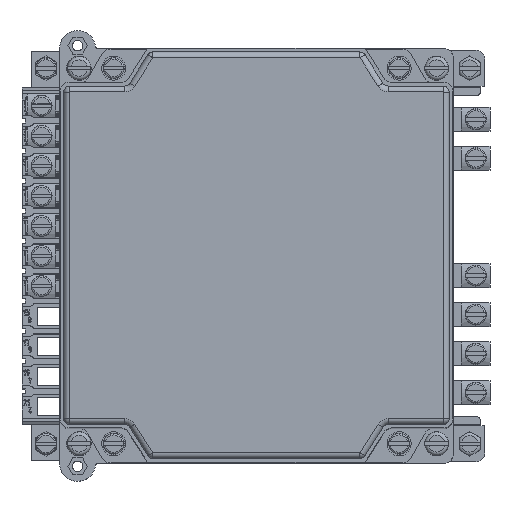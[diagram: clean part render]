
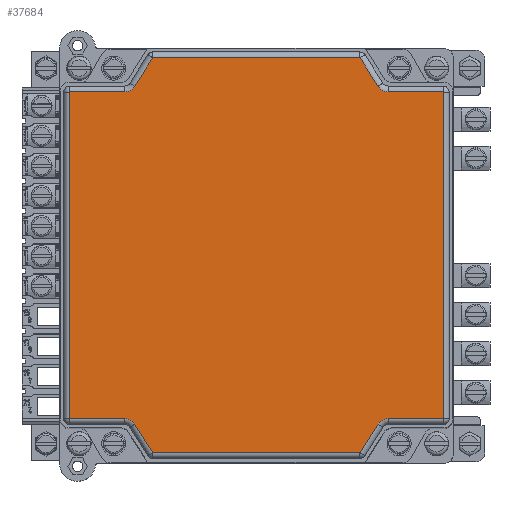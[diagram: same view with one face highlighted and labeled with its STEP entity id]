
A CAD part, top view. The second image highlights one B-rep face of the part: STEP entity #37684.
In plain terms, the highlighted planar face has unit normal (0, 0, 1).
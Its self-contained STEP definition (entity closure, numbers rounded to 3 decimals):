
#37684=ADVANCED_FACE('',(#94244),#94246,.T.);
#94244=FACE_BOUND('',#94245,.T.);
#94245=EDGE_LOOP('',(#139799,#139800,#139801,#139802,#139803,#139804,#139805,#139806,
#139807,#139808,#139809,#139810,#139811,#139812,#139813,#139814,#139815,#139816,
#139817,#139818,#139819,#139820,#139821,#139822));
#94246=PLANE('',#94247);
#94247=AXIS2_PLACEMENT_3D('',#94248,#94249,#94250);
#94248=CARTESIAN_POINT('',(0.,0.,156.5));
#94249=DIRECTION('',(0.,0.,1.));
#94250=DIRECTION('',(1.,0.,0.));
#139799=ORIENTED_EDGE('',*,*,#162518,.T.);
#139800=ORIENTED_EDGE('',*,*,#162565,.T.);
#139801=ORIENTED_EDGE('',*,*,#162563,.T.);
#139802=ORIENTED_EDGE('',*,*,#162561,.T.);
#139803=ORIENTED_EDGE('',*,*,#162559,.T.);
#139804=ORIENTED_EDGE('',*,*,#162557,.T.);
#139805=ORIENTED_EDGE('',*,*,#162555,.T.);
#139806=ORIENTED_EDGE('',*,*,#162553,.T.);
#139807=ORIENTED_EDGE('',*,*,#162551,.T.);
#139808=ORIENTED_EDGE('',*,*,#162549,.T.);
#139809=ORIENTED_EDGE('',*,*,#162547,.T.);
#139810=ORIENTED_EDGE('',*,*,#162545,.T.);
#139811=ORIENTED_EDGE('',*,*,#162543,.T.);
#139812=ORIENTED_EDGE('',*,*,#162541,.T.);
#139813=ORIENTED_EDGE('',*,*,#162539,.T.);
#139814=ORIENTED_EDGE('',*,*,#162537,.T.);
#139815=ORIENTED_EDGE('',*,*,#162535,.T.);
#139816=ORIENTED_EDGE('',*,*,#162533,.T.);
#139817=ORIENTED_EDGE('',*,*,#162531,.T.);
#139818=ORIENTED_EDGE('',*,*,#162529,.T.);
#139819=ORIENTED_EDGE('',*,*,#162527,.T.);
#139820=ORIENTED_EDGE('',*,*,#162525,.T.);
#139821=ORIENTED_EDGE('',*,*,#162523,.T.);
#139822=ORIENTED_EDGE('',*,*,#162521,.T.);
#162518=EDGE_CURVE('',#187223,#187224,#187225,.T.);
#162521=EDGE_CURVE('',#187228,#187223,#187229,.T.);
#162523=EDGE_CURVE('',#187231,#187228,#187232,.T.);
#162525=EDGE_CURVE('',#187234,#187231,#187235,.T.);
#162527=EDGE_CURVE('',#187237,#187234,#187238,.T.);
#162529=EDGE_CURVE('',#187240,#187237,#187241,.T.);
#162531=EDGE_CURVE('',#187243,#187240,#187244,.T.);
#162533=EDGE_CURVE('',#187246,#187243,#187247,.T.);
#162535=EDGE_CURVE('',#187249,#187246,#187250,.T.);
#162537=EDGE_CURVE('',#187252,#187249,#187253,.T.);
#162539=EDGE_CURVE('',#187255,#187252,#187256,.T.);
#162541=EDGE_CURVE('',#187258,#187255,#187259,.T.);
#162543=EDGE_CURVE('',#187261,#187258,#187262,.T.);
#162545=EDGE_CURVE('',#187264,#187261,#187265,.T.);
#162547=EDGE_CURVE('',#187267,#187264,#187268,.T.);
#162549=EDGE_CURVE('',#187270,#187267,#187271,.T.);
#162551=EDGE_CURVE('',#187273,#187270,#187274,.T.);
#162553=EDGE_CURVE('',#187276,#187273,#187277,.T.);
#162555=EDGE_CURVE('',#187279,#187276,#187280,.T.);
#162557=EDGE_CURVE('',#187282,#187279,#187283,.T.);
#162559=EDGE_CURVE('',#187285,#187282,#187286,.T.);
#162561=EDGE_CURVE('',#187288,#187285,#187289,.T.);
#162563=EDGE_CURVE('',#187291,#187288,#187292,.T.);
#162565=EDGE_CURVE('',#187224,#187291,#187294,.T.);
#187223=VERTEX_POINT('',#239387);
#187224=VERTEX_POINT('',#239388);
#187225=LINE('',#239389,#239390);
#187228=VERTEX_POINT('',#239400);
#187229=CIRCLE('',#239401,0.064);
#187231=VERTEX_POINT('',#239409);
#187232=LINE('',#239410,#239411);
#187234=VERTEX_POINT('',#239417);
#187235=CIRCLE('',#239418,3.936);
#187237=VERTEX_POINT('',#239426);
#187238=LINE('',#239427,#239428);
#187240=VERTEX_POINT('',#239434);
#187241=CIRCLE('',#239435,0.064);
#187243=VERTEX_POINT('',#239443);
#187244=LINE('',#239444,#239445);
#187246=VERTEX_POINT('',#239451);
#187247=CIRCLE('',#239452,0.064);
#187249=VERTEX_POINT('',#239460);
#187250=LINE('',#239461,#239462);
#187252=VERTEX_POINT('',#239468);
#187253=CIRCLE('',#239469,3.936);
#187255=VERTEX_POINT('',#239477);
#187256=LINE('',#239478,#239479);
#187258=VERTEX_POINT('',#239485);
#187259=CIRCLE('',#239486,0.064);
#187261=VERTEX_POINT('',#239494);
#187262=LINE('',#239495,#239496);
#187264=VERTEX_POINT('',#239502);
#187265=CIRCLE('',#239503,0.064);
#187267=VERTEX_POINT('',#239511);
#187268=LINE('',#239512,#239513);
#187270=VERTEX_POINT('',#239519);
#187271=CIRCLE('',#239520,3.936);
#187273=VERTEX_POINT('',#239528);
#187274=LINE('',#239529,#239530);
#187276=VERTEX_POINT('',#239536);
#187277=CIRCLE('',#239537,0.064);
#187279=VERTEX_POINT('',#239545);
#187280=LINE('',#239546,#239547);
#187282=VERTEX_POINT('',#239553);
#187283=CIRCLE('',#239554,0.064);
#187285=VERTEX_POINT('',#239562);
#187286=LINE('',#239563,#239564);
#187288=VERTEX_POINT('',#239570);
#187289=CIRCLE('',#239571,3.936);
#187291=VERTEX_POINT('',#239579);
#187292=LINE('',#239580,#239581);
#187294=CIRCLE('',#239587,0.064);
#239387=CARTESIAN_POINT('',(-62.214,54.3,156.5));
#239388=CARTESIAN_POINT('',(-62.214,-54.3,156.5));
#239389=CARTESIAN_POINT('',(-62.214,54.3,156.5));
#239390=VECTOR('',#239391,1.);
#239391=DIRECTION('',(0.,-1.,0.));
#239400=CARTESIAN_POINT('',(-62.15,54.364,156.5));
#239401=AXIS2_PLACEMENT_3D('',#239402,#239403,#239404);
#239402=CARTESIAN_POINT('',(-62.15,54.3,156.5));
#239403=DIRECTION('',(0.,0.,1.));
#239404=DIRECTION('',(0.,1.,0.));
#239409=CARTESIAN_POINT('',(-43.822,54.364,156.5));
#239410=CARTESIAN_POINT('',(-43.822,54.364,156.5));
#239411=VECTOR('',#239412,1.);
#239412=DIRECTION('',(-1.,0.,0.));
#239417=CARTESIAN_POINT('',(-40.492,56.201,156.5));
#239418=AXIS2_PLACEMENT_3D('',#239419,#239420,#239421);
#239419=CARTESIAN_POINT('',(-43.822,58.3,156.5));
#239420=DIRECTION('',(0.,0.,-1.));
#239421=DIRECTION('',(0.846,-0.533,0.));
#239426=CARTESIAN_POINT('',(-34.513,65.684,156.5));
#239427=CARTESIAN_POINT('',(-34.513,65.684,156.5));
#239428=VECTOR('',#239429,1.);
#239429=DIRECTION('',(-0.533,-0.846,0.));
#239434=CARTESIAN_POINT('',(-34.46,65.714,156.5));
#239435=AXIS2_PLACEMENT_3D('',#239436,#239437,#239438);
#239436=CARTESIAN_POINT('',(-34.46,65.65,156.5));
#239437=DIRECTION('',(0.,0.,1.));
#239438=DIRECTION('',(0.,1.,0.));
#239443=CARTESIAN_POINT('',(34.46,65.714,156.5));
#239444=CARTESIAN_POINT('',(34.46,65.714,156.5));
#239445=VECTOR('',#239446,1.);
#239446=DIRECTION('',(-1.,0.,0.));
#239451=CARTESIAN_POINT('',(34.513,65.684,156.5));
#239452=AXIS2_PLACEMENT_3D('',#239453,#239454,#239455);
#239453=CARTESIAN_POINT('',(34.46,65.65,156.5));
#239454=DIRECTION('',(0.,0.,1.));
#239455=DIRECTION('',(0.846,0.533,0.));
#239460=CARTESIAN_POINT('',(40.492,56.201,156.5));
#239461=CARTESIAN_POINT('',(40.492,56.201,156.5));
#239462=VECTOR('',#239463,1.);
#239463=DIRECTION('',(-0.533,0.846,0.));
#239468=CARTESIAN_POINT('',(43.822,54.364,156.5));
#239469=AXIS2_PLACEMENT_3D('',#239470,#239471,#239472);
#239470=CARTESIAN_POINT('',(43.822,58.3,156.5));
#239471=DIRECTION('',(0.,0.,-1.));
#239472=DIRECTION('',(0.,-1.,0.));
#239477=CARTESIAN_POINT('',(62.15,54.364,156.5));
#239478=CARTESIAN_POINT('',(62.15,54.364,156.5));
#239479=VECTOR('',#239480,1.);
#239480=DIRECTION('',(-1.,0.,0.));
#239485=CARTESIAN_POINT('',(62.214,54.3,156.5));
#239486=AXIS2_PLACEMENT_3D('',#239487,#239488,#239489);
#239487=CARTESIAN_POINT('',(62.15,54.3,156.5));
#239488=DIRECTION('',(0.,0.,1.));
#239489=DIRECTION('',(1.,0.,0.));
#239494=CARTESIAN_POINT('',(62.214,-54.3,156.5));
#239495=CARTESIAN_POINT('',(62.214,-54.3,156.5));
#239496=VECTOR('',#239497,1.);
#239497=DIRECTION('',(0.,1.,0.));
#239502=CARTESIAN_POINT('',(62.15,-54.364,156.5));
#239503=AXIS2_PLACEMENT_3D('',#239504,#239505,#239506);
#239504=CARTESIAN_POINT('',(62.15,-54.3,156.5));
#239505=DIRECTION('',(0.,0.,1.));
#239506=DIRECTION('',(0.,-1.,0.));
#239511=CARTESIAN_POINT('',(43.822,-54.364,156.5));
#239512=CARTESIAN_POINT('',(43.822,-54.364,156.5));
#239513=VECTOR('',#239514,1.);
#239514=DIRECTION('',(1.,0.,0.));
#239519=CARTESIAN_POINT('',(40.492,-56.201,156.5));
#239520=AXIS2_PLACEMENT_3D('',#239521,#239522,#239523);
#239521=CARTESIAN_POINT('',(43.822,-58.3,156.5));
#239522=DIRECTION('',(0.,0.,-1.));
#239523=DIRECTION('',(-0.846,0.533,0.));
#239528=CARTESIAN_POINT('',(34.513,-65.684,156.5));
#239529=CARTESIAN_POINT('',(34.513,-65.684,156.5));
#239530=VECTOR('',#239531,1.);
#239531=DIRECTION('',(0.533,0.846,0.));
#239536=CARTESIAN_POINT('',(34.46,-65.714,156.5));
#239537=AXIS2_PLACEMENT_3D('',#239538,#239539,#239540);
#239538=CARTESIAN_POINT('',(34.46,-65.65,156.5));
#239539=DIRECTION('',(0.,0.,1.));
#239540=DIRECTION('',(0.,-1.,0.));
#239545=CARTESIAN_POINT('',(-34.46,-65.714,156.5));
#239546=CARTESIAN_POINT('',(-34.46,-65.714,156.5));
#239547=VECTOR('',#239548,1.);
#239548=DIRECTION('',(1.,0.,0.));
#239553=CARTESIAN_POINT('',(-34.513,-65.684,156.5));
#239554=AXIS2_PLACEMENT_3D('',#239555,#239556,#239557);
#239555=CARTESIAN_POINT('',(-34.46,-65.65,156.5));
#239556=DIRECTION('',(0.,0.,1.));
#239557=DIRECTION('',(-0.846,-0.533,0.));
#239562=CARTESIAN_POINT('',(-40.492,-56.201,156.5));
#239563=CARTESIAN_POINT('',(-40.492,-56.201,156.5));
#239564=VECTOR('',#239565,1.);
#239565=DIRECTION('',(0.533,-0.846,0.));
#239570=CARTESIAN_POINT('',(-43.822,-54.364,156.5));
#239571=AXIS2_PLACEMENT_3D('',#239572,#239573,#239574);
#239572=CARTESIAN_POINT('',(-43.822,-58.3,156.5));
#239573=DIRECTION('',(0.,0.,-1.));
#239574=DIRECTION('',(0.,1.,0.));
#239579=CARTESIAN_POINT('',(-62.15,-54.364,156.5));
#239580=CARTESIAN_POINT('',(-62.15,-54.364,156.5));
#239581=VECTOR('',#239582,1.);
#239582=DIRECTION('',(1.,0.,0.));
#239587=AXIS2_PLACEMENT_3D('',#239588,#239589,#239590);
#239588=CARTESIAN_POINT('',(-62.15,-54.3,156.5));
#239589=DIRECTION('',(0.,0.,1.));
#239590=DIRECTION('',(-1.,0.,0.));
